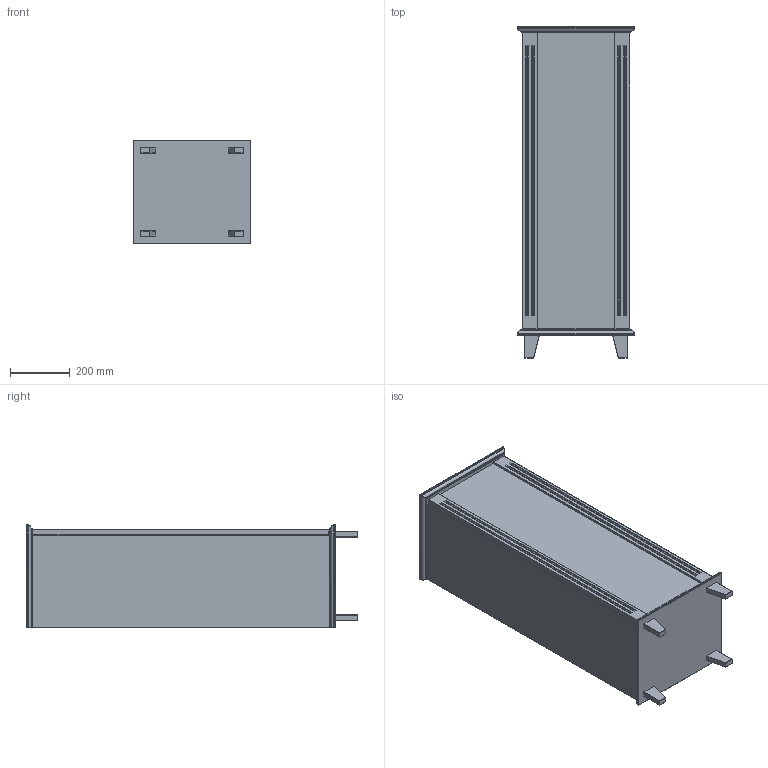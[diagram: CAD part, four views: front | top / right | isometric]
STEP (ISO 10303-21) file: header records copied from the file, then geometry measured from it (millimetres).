
FILE_DESCRIPTION(/* description */ (''),/* implementation_level */ '2;1');
FILE_NAME(/* name */ 'C:/Users/marti/Desktop/3D/Vannitoa Kapp/Cabinet.step',/* time_stamp */ '2020-12-17T19:31:33+02:00',/* author */ (''),/* organization */ (''),/* preprocessor_version */ 'ST-DEVELOPER v18.1',/* originating_system */ 'Autodesk Translation Framework v9.7.1.1290',/* authorisation */ '');
FILE_SCHEMA (('AUTOMOTIVE_DESIGN { 1 0 10303 214 3 1 1 }'));
Length unit declared in the file: millimetre
Products named in the file (1): Vannitoa kapp_klaasiga
Bounding box: 396 x 1115 x 348 mm (x, y, z)
Volume: 27202323.7 mm3; surface area: 4439924.8 mm2
Topology: 16 solids, 16 shells, 463 faces, 990 edges, 564 vertices
Faces by surface type: plane 441, cone 12, cylinder 10
Entity records: 11893 total; most frequent: CARTESIAN_POINT 2018, ORIENTED_EDGE 1980, DIRECTION 1946, EDGE_CURVE 990, LINE 962, VECTOR 962, VERTEX_POINT 564, AXIS2_PLACEMENT_3D 492
